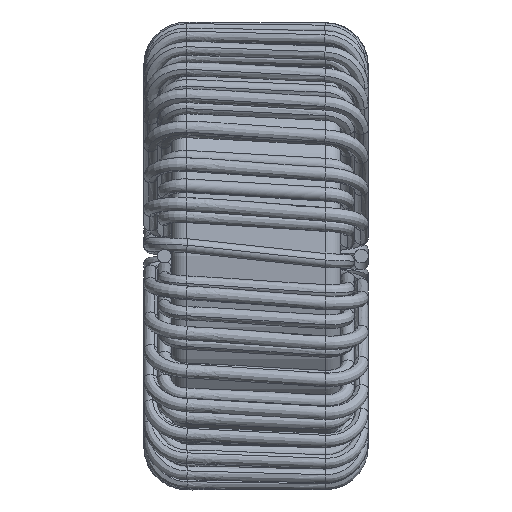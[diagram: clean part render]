
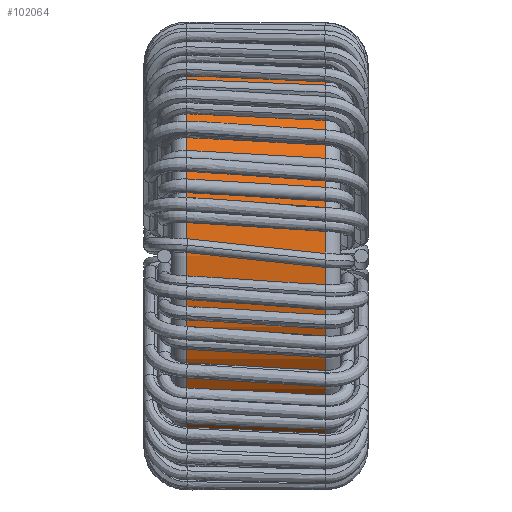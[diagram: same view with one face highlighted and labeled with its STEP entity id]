
A CAD part, left-side view. The second image highlights one B-rep face of the part: STEP entity #102064.
In plain terms, the highlighted cylindrical face has radius 6.73 mm (diameter 13.46 mm), a partial arc.
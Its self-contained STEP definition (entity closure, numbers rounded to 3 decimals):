
#188 = CARTESIAN_POINT ( 'NONE',  ( -20.433, -7.172, 21.012 ) ) ;
#865 = DIRECTION ( 'NONE',  ( 0., -1., 0. ) ) ;
#5522 = CARTESIAN_POINT ( 'NONE',  ( -20.433, -7.672, 14.282 ) ) ;
#8186 = AXIS2_PLACEMENT_3D ( 'NONE', #124725, #123876, #84886 ) ;
#14868 = ORIENTED_EDGE ( 'NONE', *, *, #118109, .T. ) ;
#19287 = EDGE_CURVE ( 'NONE', #77429, #121910, #58816, .T. ) ;
#24170 = FACE_OUTER_BOUND ( 'NONE', #99051, .T. ) ;
#32369 = CARTESIAN_POINT ( 'NONE',  ( -20.433, -12.182, 14.282 ) ) ;
#37145 = ORIENTED_EDGE ( 'NONE', *, *, #19287, .F. ) ;
#42641 = DIRECTION ( 'NONE',  ( 0., -1., 0. ) ) ;
#50256 = DIRECTION ( 'NONE',  ( 0., -1., 0. ) ) ;
#58816 = LINE ( 'NONE', #113536, #75592 ) ;
#59172 = DIRECTION ( 'NONE',  ( 0., 0., 1. ) ) ;
#59431 = CARTESIAN_POINT ( 'NONE',  ( -20.433, -7.172, 14.282 ) ) ;
#69542 = DIRECTION ( 'NONE',  ( 0., 0., -1. ) ) ;
#71263 = VERTEX_POINT ( 'NONE', #32369 ) ;
#74178 = CARTESIAN_POINT ( 'NONE',  ( -20.433, -12.182, 27.742 ) ) ;
#75592 = VECTOR ( 'NONE', #82732, 1000. ) ;
#77429 = VERTEX_POINT ( 'NONE', #93483 ) ;
#81855 = VECTOR ( 'NONE', #42641, 1000. ) ;
#82732 = DIRECTION ( 'NONE',  ( 0., -1., 0. ) ) ;
#84886 = DIRECTION ( 'NONE',  ( 0., 0., 1. ) ) ;
#86658 = ORIENTED_EDGE ( 'NONE', *, *, #88983, .T. ) ;
#87176 = CIRCLE ( 'NONE', #125664, 6.73 ) ;
#88983 = EDGE_CURVE ( 'NONE', #109094, #71263, #98645, .T. ) ;
#90111 = AXIS2_PLACEMENT_3D ( 'NONE', #188, #50256, #69542 ) ;
#93483 = CARTESIAN_POINT ( 'NONE',  ( -20.433, -7.672, 27.742 ) ) ;
#96195 = EDGE_CURVE ( 'NONE', #77429, #109094, #87176, .T. ) ;
#98645 = LINE ( 'NONE', #59431, #81855 ) ;
#99051 = EDGE_LOOP ( 'NONE', ( #37145, #105352, #86658, #14868 ) ) ;
#102064 = ADVANCED_FACE ( 'NONE', ( #24170 ), #122256, .T. ) ;
#105352 = ORIENTED_EDGE ( 'NONE', *, *, #96195, .T. ) ;
#109094 = VERTEX_POINT ( 'NONE', #5522 ) ;
#113536 = CARTESIAN_POINT ( 'NONE',  ( -20.433, -7.172, 27.742 ) ) ;
#117785 = CARTESIAN_POINT ( 'NONE',  ( -20.433, -7.672, 21.012 ) ) ;
#118109 = EDGE_CURVE ( 'NONE', #71263, #121910, #124557, .T. ) ;
#121910 = VERTEX_POINT ( 'NONE', #74178 ) ;
#122256 = CYLINDRICAL_SURFACE ( 'NONE', #90111, 6.73 ) ;
#123876 = DIRECTION ( 'NONE',  ( 0., 1., 0. ) ) ;
#124557 = CIRCLE ( 'NONE', #8186, 6.73 ) ;
#124725 = CARTESIAN_POINT ( 'NONE',  ( -20.433, -12.182, 21.012 ) ) ;
#125664 = AXIS2_PLACEMENT_3D ( 'NONE', #117785, #865, #59172 ) ;
